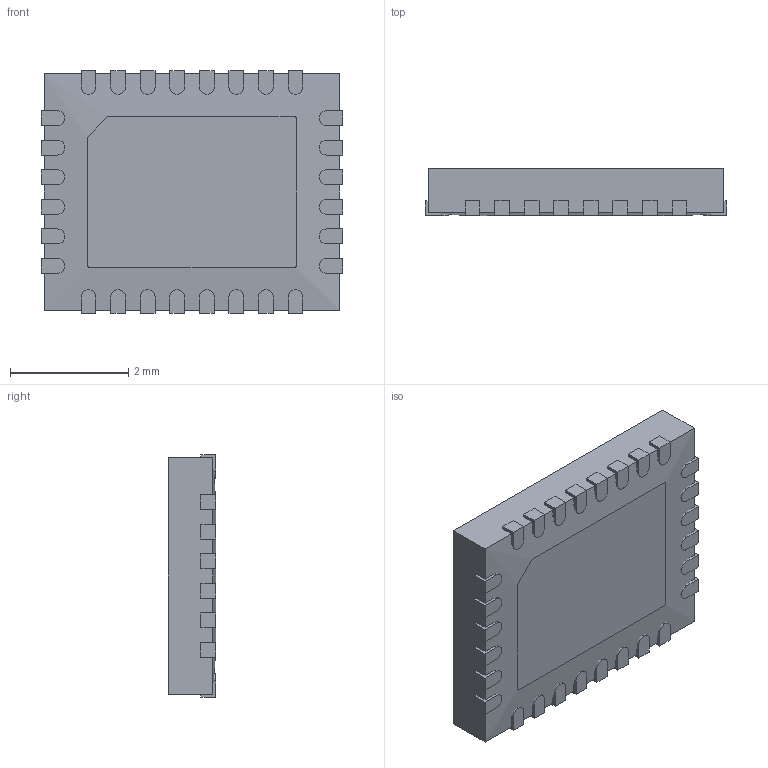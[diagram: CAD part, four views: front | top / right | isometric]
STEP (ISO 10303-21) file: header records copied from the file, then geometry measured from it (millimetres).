
FILE_DESCRIPTION (( 'STEP AP214' ), '1' );
FILE_NAME ( 'QFN50P500X400X80-29T255X355.STEP', '2014-04-11T12:31:20', ( '' ), ( '' ), 'FPX Expert 2013', 'PCB Libraries', '' );
FILE_SCHEMA (( 'AUTOMOTIVE_DESIGN' ));
Length unit declared in the file: millimetre
Products named in the file (1): QFN50P500X400X80-29T255X355
Bounding box: 5.1 x 0.8 x 4.1 mm (x, y, z)
Volume: 15.3 mm3; surface area: 86.5 mm2
Topology: 30 solids, 30 shells, 280 faces, 654 edges, 436 vertices
Faces by surface type: plane 216, cylinder 62, torus 2
Entity records: 9039 total; most frequent: CARTESIAN_POINT 1371, DIRECTION 1346, ORIENTED_EDGE 1308, EDGE_CURVE 654, VECTOR 524, LINE 524, VERTEX_POINT 436, AXIS2_PLACEMENT_3D 411
